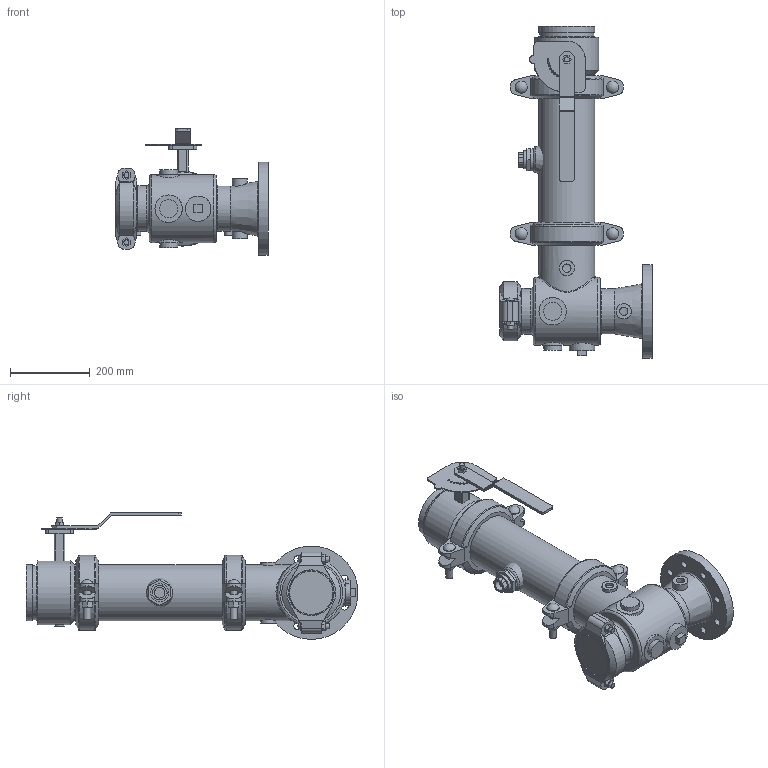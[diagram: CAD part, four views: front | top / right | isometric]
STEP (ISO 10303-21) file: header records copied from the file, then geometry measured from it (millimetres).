
FILE_DESCRIPTION(/* description */ ('VIC SVI PUMP DROP HORZ S/391 (OGSxFLG)','CAx-IF Rec.Pracs.---Representation and Presentation of Product Manufacturing Information (PMI)---4.0---2014-10-13'),/* implementation_level */ '2;1');
FILE_NAME(/* name */ 'C:\Users\kkamble\AppData\Roaming\Autodesk\ApplicationPlugins\Back Up\Victaulic_PN10_Series 391 (OGSxFLG)\Victaulic_PN10_Series 391 (OGSxFLG)_05.0 (139.7)x04.0 (125x100).stp',/* time_stamp */ '2020-11-26T23:44:00+05:00',/* author */ ('kkamble'),/* organization */ ('Victaulic'),/* preprocessor_version */ 'ST-DEVELOPER v17.2',/* originating_system */ 'Autodesk Inventor 2019',/* authorisation */ '');
FILE_SCHEMA (('PROCESS_PLANNING_SCHEMA','AP242_MANAGED_MODEL_BASED_3D_ENGINEERING_MIM_LF { 1 0 10303 442 1 1 4 }'));
Length unit declared in the file: inch
Products named in the file (9): 391-05.0 (139.7)x04.0; 731D-05.0 (139.7)x04.0; 731D-05.0 (139.7)x04.0_1; 731D-05.0; 07-04.0; PIPE-05.0 (139.7); 177N-05.0 (139.7); 761-05.0 (139.7); 923-04.0x0.75
Assembly tree (9 placements, depth 3):
  391-05.0 (139.7)x04.0
    731D-05.0 (139.7)x04.0
      731D-05.0 (139.7)x04.0_1
      731D-05.0
      07-04.0
    177N-05.0 (139.7)  x2
    PIPE-05.0 (139.7)
    761-05.0 (139.7)
    923-04.0x0.75
Bounding box: 381 x 830.83 x 317.25 mm (x, y, z)
Volume: 8163878.7 mm3; surface area: 1388670.2 mm2
Topology: 8 solids, 11 shells, 531 faces, 1377 edges, 929 vertices
Faces by surface type: plane 297, cylinder 191, cone 19, torus 17, sphere 6, bspline 1
Full cylindrical faces by diameter (mm): 4.826 x10, 8.636 x4, 12.7 x6, 17.78 x4, 18.009 x8, 20.955 x4, 22.225 x2, 22.86 x1, 26.67 x1, 30.48 x4, 38.1 x4, 45.72 x3, 45.974 x2, 55.118 x1, 55.626 x1, 63.5 x1, 84.074 x1, 90.678 x1, 96.52 x1, 101.6 x1, 107.95 x1, 110.084 x2, 113.03 x1, 114.3 x5, 121.412 x1, 126.594 x1, 127 x2, 128.194 x1, 135.484 x5, 139.7 x13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
Entity records: 15601 total; most frequent: CARTESIAN_POINT 3533, DIRECTION 2481, ORIENTED_EDGE 2274, EDGE_CURVE 1137, AXIS2_PLACEMENT_3D 946, VERTEX_POINT 770, LINE 589, VECTOR 589
